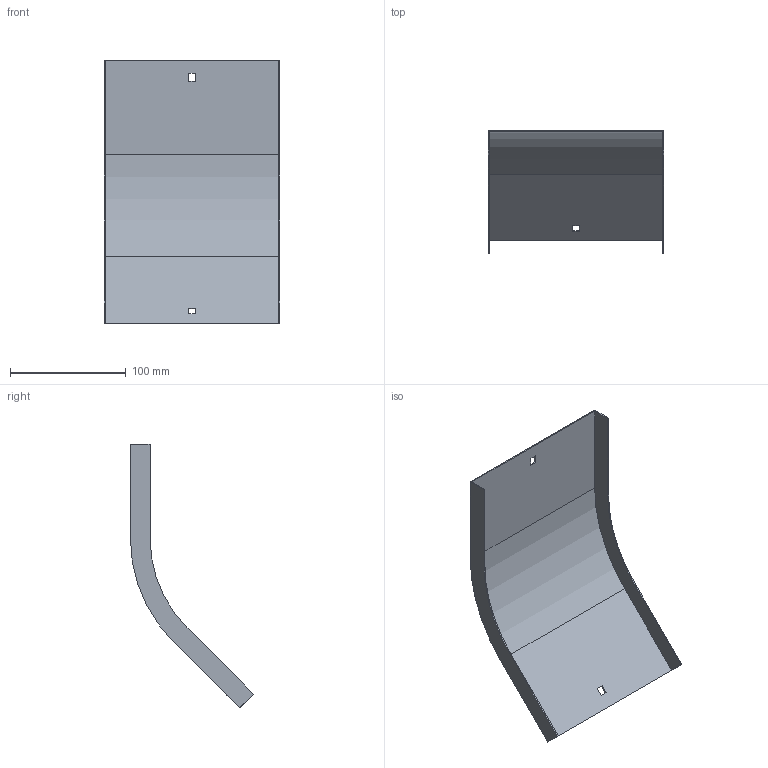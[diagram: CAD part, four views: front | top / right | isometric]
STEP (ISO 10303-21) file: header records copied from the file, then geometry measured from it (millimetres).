
FILE_DESCRIPTION (( 'STEP AP214' ), '1' );
FILE_NAME ('OD4_151.step', '2025-07-16T09:11:26', ( '' ), ( '' ), 'SwSTEP 2.0', 'SolidWorks 2023', '' );
FILE_SCHEMA (( 'AUTOMOTIVE_DESIGN' ));
Length unit declared in the file: millimetre
Products named in the file (1): OD4_151
Bounding box: 152 x 106.5 x 228.09 mm (x, y, z)
Volume: 47801.7 mm3; surface area: 96521.1 mm2
Topology: 1 solids, 1 shells, 26 faces, 72 edges, 48 vertices
Faces by surface type: plane 22, cylinder 4
Entity records: 855 total; most frequent: CARTESIAN_POINT 147, ORIENTED_EDGE 144, DIRECTION 134, EDGE_CURVE 72, LINE 64, VECTOR 64, VERTEX_POINT 48, AXIS2_PLACEMENT_3D 35
